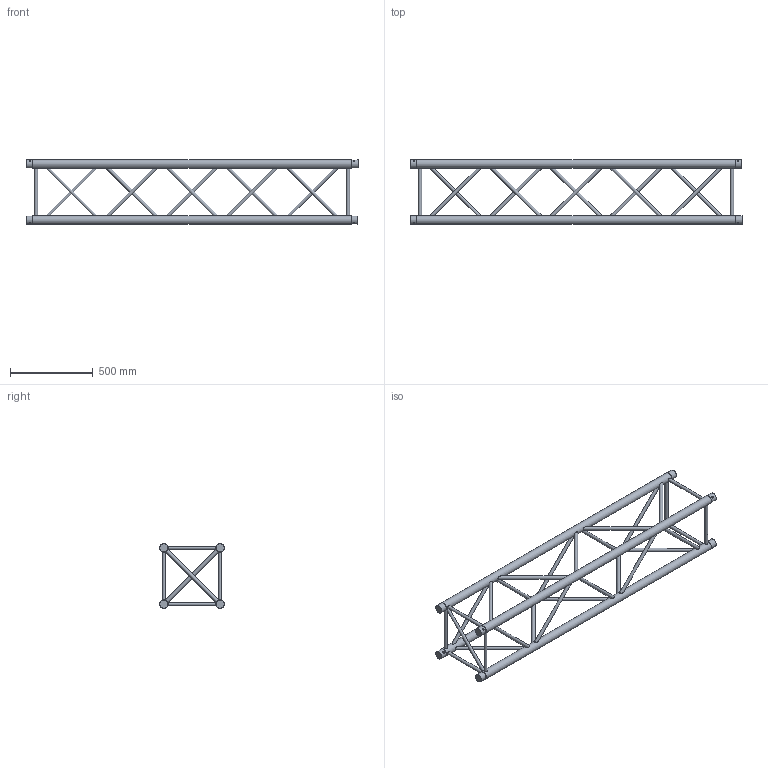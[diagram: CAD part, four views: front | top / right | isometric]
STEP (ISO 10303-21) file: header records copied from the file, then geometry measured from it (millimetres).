
FILE_DESCRIPTION(/* description */ (''),/* implementation_level */ '2;1');
FILE_NAME(/* name */ 'M:\Symbolen\STP\40-er truss\111080196.stp',/* time_stamp */ '2015-02-26T15:45:11+01:00',/* author */ ('Stephan'),/* organization */ (''),/* preprocessor_version */ 'ST-DEVELOPER v15.6',/* originating_system */ 'Autodesk Inventor 2015',/* authorisation */ '');
FILE_SCHEMA (('AUTOMOTIVE_DESIGN { 1 0 10303 214 3 1 1 }'));
Length unit declared in the file: millimetre
Products named in the file (1): 160023955
Bounding box: 2000 x 389.98 x 389.98 mm (x, y, z)
Volume: 19825695.4 mm3; surface area: 2044915.2 mm2
Topology: 34 solids, 34 shells, 230 faces, 426 edges, 264 vertices
Faces by surface type: plane 132, cylinder 90, cone 8
Full cylindrical faces by diameter (mm): 10 x8, 20 x30, 49.5 x8, 51 x4
Entity records: 6225 total; most frequent: CARTESIAN_POINT 1767, DIRECTION 774, ORIENTED_EDGE 744, EDGE_CURVE 356, AXIS2_PLACEMENT_3D 339, EDGE_LOOP 328, VERTEX_POINT 260, STYLED_ITEM 193
